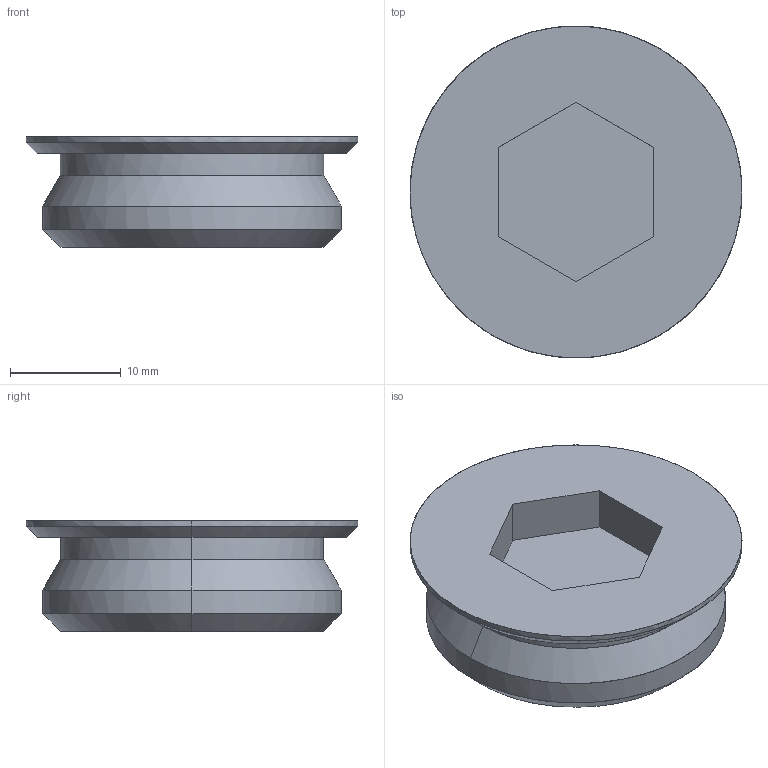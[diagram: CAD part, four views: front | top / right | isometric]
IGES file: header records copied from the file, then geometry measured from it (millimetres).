
Global section: file name: E:\UnigraphicsGraphicData\MISUMI_PRESS-PARTS\IGES\3d_mswzs27-10_00496_r00.igs; native system: NX V5.0; preprocessor: UGS NX IGES V5.0; author: MISUMI; date: 20110105.161530; units: millimetre
Bounding box: 30 x 30 x 10 mm (x, y, z)
Surface area: 2458.8 mm2 (no closed solid volume)
Topology: 0 solids, 0 shells, 22 faces, 132 edges, 132 vertices
Faces by surface type: bspline 22
